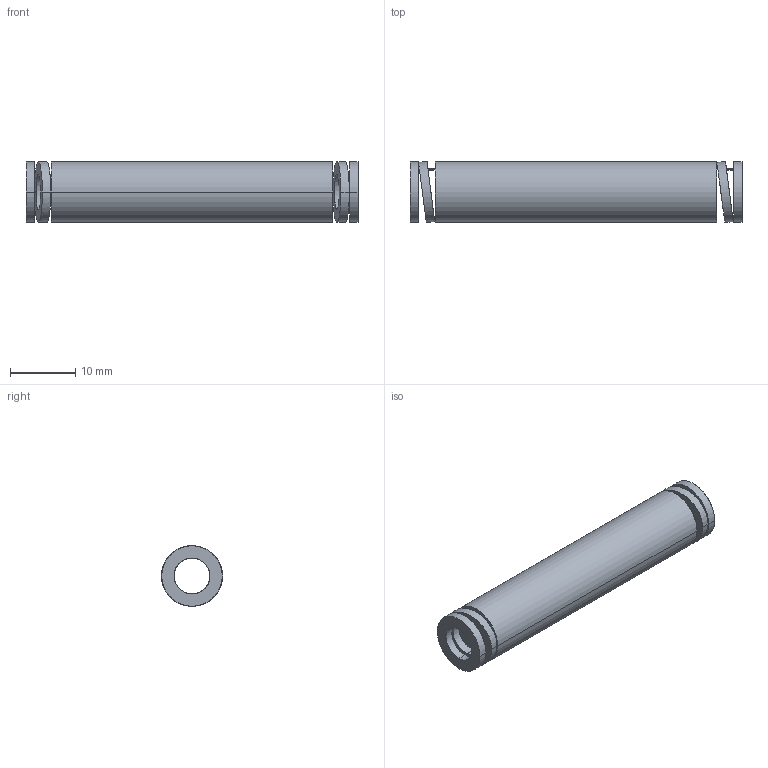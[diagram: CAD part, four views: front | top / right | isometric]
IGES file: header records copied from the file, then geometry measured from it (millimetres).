
Start section: START RECORD GO HERE.
Global section: file name: 392-B10-051.igs; native system: DASSAULT SYSTEMES CATIA V5 R20 - www.3ds.com; preprocessor: CATIA Version 5 Release 20 ; author: Utente; organization: NB04-ASUS; date: 20210812.150058; units: millimetre
Bounding box: 51 x 9.39 x 9.3 mm (x, y, z)
Surface area: 2697.9 mm2 (no closed solid volume)
Topology: 0 solids, 0 shells, 38 faces, 184 edges, 184 vertices
Faces by surface type: revolution 28, plane 10
